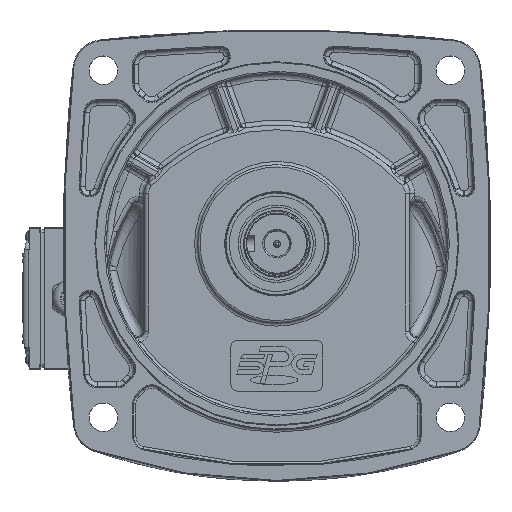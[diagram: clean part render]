
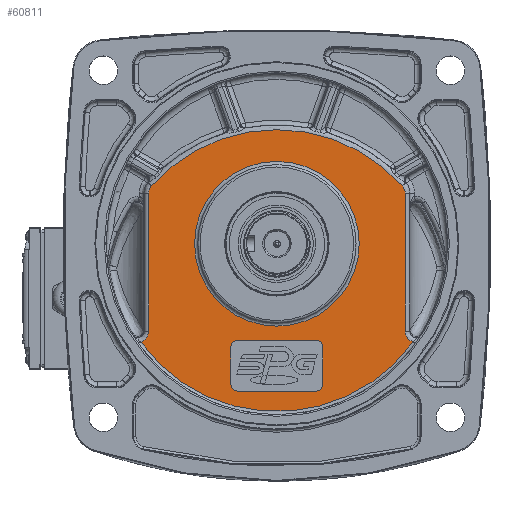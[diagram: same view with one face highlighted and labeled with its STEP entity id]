
A CAD part, top view. The second image highlights one B-rep face of the part: STEP entity #60811.
In plain terms, the highlighted planar face has unit normal (0, 0, 1).
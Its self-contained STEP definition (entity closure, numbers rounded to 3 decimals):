
#637=FACE_BOUND('',#13810,.T.);
#638=FACE_BOUND('',#13811,.T.);
#1616=PLANE('',#65818);
#3385=LINE('',#97792,#6194);
#3389=LINE('',#97804,#6198);
#3393=LINE('',#97816,#6202);
#3490=LINE('',#98092,#6299);
#3733=LINE('',#104867,#6542);
#3734=LINE('',#104882,#6543);
#6194=VECTOR('',#74660,10.);
#6198=VECTOR('',#74672,10.);
#6202=VECTOR('',#74684,10.);
#6299=VECTOR('',#74931,10.);
#6542=VECTOR('',#76262,10.);
#6543=VECTOR('',#76265,10.);
#9943=FACE_OUTER_BOUND('',#13809,.T.);
#13809=EDGE_LOOP('',(#43934,#43935,#43936,#43937,#43938,#43939,#43940,#43941));
#13810=EDGE_LOOP('',(#43942,#43943,#43944,#43945,#43946,#43947,#43948,#43949));
#13811=EDGE_LOOP('',(#43950));
#17393=CIRCLE('',#65190,4.);
#17395=CIRCLE('',#65194,4.);
#17397=CIRCLE('',#65198,4.);
#17399=CIRCLE('',#65202,4.);
#17726=CIRCLE('',#65814,105.999);
#17730=CIRCLE('',#65819,106.076);
#17731=CIRCLE('',#65820,52.);
#20608=B_SPLINE_CURVE_WITH_KNOTS('',3,(#104842,#104843,#104844,#104845,
#104846,#104847),.UNSPECIFIED.,.F.,.F.,(4,1,1,4),(0.901,1.027,
1.54,1.797),.UNSPECIFIED.);
#20610=B_SPLINE_CURVE_WITH_KNOTS('',3,(#104859,#104860,#104861,#104862,
#104863,#104864,#104865),.UNSPECIFIED.,.F.,.F.,(4,1,1,1,4),(0.,
0.257,0.513,0.77,0.896),
 .UNSPECIFIED.);
#20611=B_SPLINE_CURVE_WITH_KNOTS('',3,(#104869,#104870,#104871,#104872,
#104873),.UNSPECIFIED.,.F.,.F.,(4,1,4),(0.,0.217,0.507),
 .UNSPECIFIED.);
#20612=B_SPLINE_CURVE_WITH_KNOTS('',3,(#104877,#104878,#104879,#104880,
#104881),.UNSPECIFIED.,.F.,.F.,(4,1,4),(0.,0.29,0.507),
 .UNSPECIFIED.);
#24433=VERTEX_POINT('',#97782);
#24434=VERTEX_POINT('',#97784);
#24436=VERTEX_POINT('',#97790);
#24438=VERTEX_POINT('',#97796);
#24440=VERTEX_POINT('',#97802);
#24442=VERTEX_POINT('',#97808);
#24444=VERTEX_POINT('',#97814);
#24446=VERTEX_POINT('',#97820);
#24972=VERTEX_POINT('',#104636);
#24973=VERTEX_POINT('',#104638);
#24977=VERTEX_POINT('',#104841);
#24979=VERTEX_POINT('',#104858);
#24980=VERTEX_POINT('',#104866);
#24981=VERTEX_POINT('',#104868);
#24982=VERTEX_POINT('',#104874);
#24983=VERTEX_POINT('',#104876);
#24984=VERTEX_POINT('',#104883);
#30801=EDGE_CURVE('',#24433,#24434,#17393,.T.);
#30805=EDGE_CURVE('',#24433,#24436,#3385,.T.);
#30808=EDGE_CURVE('',#24438,#24436,#17395,.T.);
#30811=EDGE_CURVE('',#24438,#24440,#3389,.T.);
#30814=EDGE_CURVE('',#24442,#24440,#17397,.T.);
#30817=EDGE_CURVE('',#24442,#24444,#3393,.T.);
#30820=EDGE_CURVE('',#24446,#24444,#17399,.T.);
#30956=EDGE_CURVE('',#24446,#24434,#3490,.T.);
#31730=EDGE_CURVE('',#24972,#24973,#17726,.T.);
#31737=EDGE_CURVE('',#24973,#24977,#20608,.T.);
#31740=EDGE_CURVE('',#24979,#24972,#20610,.T.);
#31741=EDGE_CURVE('',#24980,#24979,#3733,.T.);
#31742=EDGE_CURVE('',#24981,#24980,#20611,.T.);
#31743=EDGE_CURVE('',#24982,#24981,#17730,.T.);
#31744=EDGE_CURVE('',#24983,#24982,#20612,.T.);
#31745=EDGE_CURVE('',#24977,#24983,#3734,.T.);
#31746=EDGE_CURVE('',#24984,#24984,#17731,.T.);
#43934=ORIENTED_EDGE('',*,*,#31730,.F.);
#43935=ORIENTED_EDGE('',*,*,#31740,.F.);
#43936=ORIENTED_EDGE('',*,*,#31741,.F.);
#43937=ORIENTED_EDGE('',*,*,#31742,.F.);
#43938=ORIENTED_EDGE('',*,*,#31743,.F.);
#43939=ORIENTED_EDGE('',*,*,#31744,.F.);
#43940=ORIENTED_EDGE('',*,*,#31745,.F.);
#43941=ORIENTED_EDGE('',*,*,#31737,.F.);
#43942=ORIENTED_EDGE('',*,*,#30817,.T.);
#43943=ORIENTED_EDGE('',*,*,#30820,.F.);
#43944=ORIENTED_EDGE('',*,*,#30956,.T.);
#43945=ORIENTED_EDGE('',*,*,#30801,.F.);
#43946=ORIENTED_EDGE('',*,*,#30805,.T.);
#43947=ORIENTED_EDGE('',*,*,#30808,.F.);
#43948=ORIENTED_EDGE('',*,*,#30811,.T.);
#43949=ORIENTED_EDGE('',*,*,#30814,.F.);
#43950=ORIENTED_EDGE('',*,*,#31746,.F.);
#60811=ADVANCED_FACE('',(#9943,#637,#638),#1616,.F.);
#65190=AXIS2_PLACEMENT_3D('',#97785,#74653,#74654);
#65194=AXIS2_PLACEMENT_3D('',#97798,#74666,#74667);
#65198=AXIS2_PLACEMENT_3D('',#97810,#74678,#74679);
#65202=AXIS2_PLACEMENT_3D('',#97822,#74690,#74691);
#65814=AXIS2_PLACEMENT_3D('',#104639,#76252,#76253);
#65818=AXIS2_PLACEMENT_3D('',#104857,#76260,#76261);
#65819=AXIS2_PLACEMENT_3D('',#104875,#76263,#76264);
#65820=AXIS2_PLACEMENT_3D('',#104884,#76266,#76267);
#74653=DIRECTION('center_axis',(0.,0.,1.));
#74654=DIRECTION('ref_axis',(0.707,0.707,0.));
#74660=DIRECTION('',(0.,-1.,0.));
#74666=DIRECTION('center_axis',(0.,0.,1.));
#74667=DIRECTION('ref_axis',(0.707,-0.707,0.));
#74672=DIRECTION('',(-1.,0.,0.));
#74678=DIRECTION('center_axis',(0.,0.,1.));
#74679=DIRECTION('ref_axis',(-0.707,-0.707,0.));
#74684=DIRECTION('',(0.,1.,0.));
#74690=DIRECTION('center_axis',(0.,0.,1.));
#74691=DIRECTION('ref_axis',(-0.707,0.707,0.));
#74931=DIRECTION('',(1.,0.,0.));
#76252=DIRECTION('center_axis',(0.,0.,-1.));
#76253=DIRECTION('ref_axis',(0.,-1.,0.));
#76260=DIRECTION('center_axis',(0.,0.,-1.));
#76261=DIRECTION('ref_axis',(-1.,0.,0.));
#76262=DIRECTION('',(0.,-1.,0.));
#76263=DIRECTION('center_axis',(0.,0.,-1.));
#76264=DIRECTION('ref_axis',(0.,1.,0.));
#76265=DIRECTION('',(0.,1.,0.));
#76266=DIRECTION('center_axis',(0.,0.,1.));
#76267=DIRECTION('ref_axis',(-1.,0.,0.));
#97782=CARTESIAN_POINT('',(31.891,-30.92,88.));
#97784=CARTESIAN_POINT('',(27.891,-26.92,88.));
#97785=CARTESIAN_POINT('Origin',(27.891,-30.92,88.));
#97790=CARTESIAN_POINT('',(31.891,-54.92,88.));
#97792=CARTESIAN_POINT('',(31.891,-29.42,88.));
#97796=CARTESIAN_POINT('',(27.891,-58.92,88.));
#97798=CARTESIAN_POINT('Origin',(27.891,-54.92,88.));
#97802=CARTESIAN_POINT('',(-22.109,-58.92,88.));
#97804=CARTESIAN_POINT('',(-11.609,-58.92,88.));
#97808=CARTESIAN_POINT('',(-26.109,-54.92,88.));
#97810=CARTESIAN_POINT('Origin',(-22.109,-54.92,88.));
#97814=CARTESIAN_POINT('',(-26.109,-30.92,88.));
#97816=CARTESIAN_POINT('',(-26.109,-13.42,88.));
#97820=CARTESIAN_POINT('',(-22.109,-26.92,88.));
#97822=CARTESIAN_POINT('Origin',(-22.109,-30.92,88.));
#98092=CARTESIAN_POINT('',(17.391,-26.92,88.));
#104636=CARTESIAN_POINT('',(88.925,-27.839,88.));
#104638=CARTESIAN_POINT('',(-83.143,-27.839,88.));
#104639=CARTESIAN_POINT('Origin',(2.891,34.08,88.));
#104841=CARTESIAN_POINT('',(-78.109,-21.114,88.));
#104842=CARTESIAN_POINT('Ctrl Pts',(-83.144,-27.838,
88.));
#104843=CARTESIAN_POINT('Ctrl Pts',(-82.738,-27.721,
88.));
#104844=CARTESIAN_POINT('Ctrl Pts',(-80.734,-26.943,
88.));
#104845=CARTESIAN_POINT('Ctrl Pts',(-78.576,-24.563,
88.));
#104846=CARTESIAN_POINT('Ctrl Pts',(-78.109,-21.97,
88.));
#104847=CARTESIAN_POINT('Ctrl Pts',(-78.109,-21.114,
88.));
#104857=CARTESIAN_POINT('Origin',(2.891,0.08,88.));
#104858=CARTESIAN_POINT('',(83.891,-21.114,88.));
#104859=CARTESIAN_POINT('Ctrl Pts',(83.891,-21.114,
88.));
#104860=CARTESIAN_POINT('Ctrl Pts',(83.891,-21.97,
88.));
#104861=CARTESIAN_POINT('Ctrl Pts',(84.21,-23.7,
88.));
#104862=CARTESIAN_POINT('Ctrl Pts',(85.588,-25.927,
88.));
#104863=CARTESIAN_POINT('Ctrl Pts',(87.32,-27.254,
88.));
#104864=CARTESIAN_POINT('Ctrl Pts',(88.52,-27.72,
88.));
#104865=CARTESIAN_POINT('Ctrl Pts',(88.926,-27.837,
88.));
#104866=CARTESIAN_POINT('',(83.891,65.956,88.));
#104867=CARTESIAN_POINT('',(83.891,-47.92,88.));
#104868=CARTESIAN_POINT('',(82.117,70.616,88.));
#104869=CARTESIAN_POINT('Ctrl Pts',(82.117,70.616,88.));
#104870=CARTESIAN_POINT('Ctrl Pts',(82.599,70.075,88.));
#104871=CARTESIAN_POINT('Ctrl Pts',(83.534,68.625,88.));
#104872=CARTESIAN_POINT('Ctrl Pts',(83.891,66.921,88.));
#104873=CARTESIAN_POINT('Ctrl Pts',(83.891,65.956,88.));
#104874=CARTESIAN_POINT('',(-76.336,70.616,88.));
#104875=CARTESIAN_POINT('Origin',(2.891,0.08,88.));
#104876=CARTESIAN_POINT('',(-78.109,65.956,88.));
#104877=CARTESIAN_POINT('Ctrl Pts',(-78.109,65.956,88.));
#104878=CARTESIAN_POINT('Ctrl Pts',(-78.109,66.921,88.));
#104879=CARTESIAN_POINT('Ctrl Pts',(-77.752,68.625,88.));
#104880=CARTESIAN_POINT('Ctrl Pts',(-76.817,70.075,
88.));
#104881=CARTESIAN_POINT('Ctrl Pts',(-76.336,70.616,
88.));
#104882=CARTESIAN_POINT('',(-78.109,-47.92,88.));
#104883=CARTESIAN_POINT('',(54.891,34.08,88.));
#104884=CARTESIAN_POINT('Origin',(2.891,34.08,88.));
